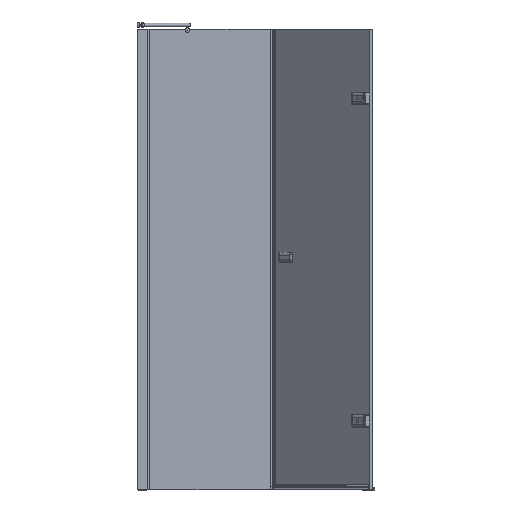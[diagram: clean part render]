
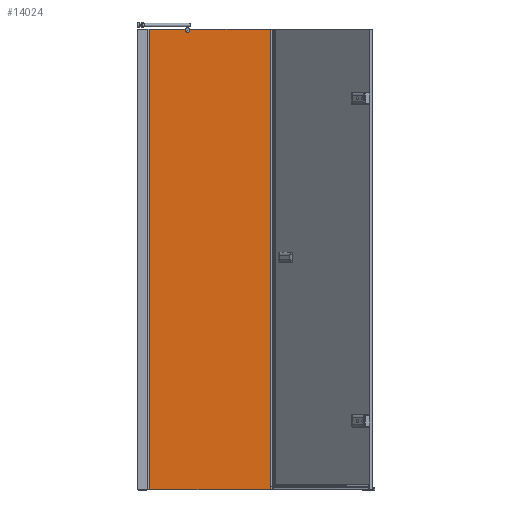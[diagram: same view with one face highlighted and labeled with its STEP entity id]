
A CAD part, left-side view. The second image highlights one B-rep face of the part: STEP entity #14024.
In plain terms, the highlighted planar face has unit normal (-1, 0, 0).
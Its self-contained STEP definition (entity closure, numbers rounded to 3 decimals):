
#520=CIRCLE($,#14944,10.);
#1300=FACE_OUTER_BOUND($,#2063,.T.);
#2063=EDGE_LOOP($,(#10634,#10635,#10636,#10637,#10638,#10639,#10640,#10641));
#3184=LINE($,#22756,#4639);
#3204=LINE($,#22815,#4659);
#3250=LINE($,#22934,#4705);
#3254=LINE($,#22943,#4709);
#3259=LINE($,#22955,#4714);
#3260=LINE($,#22958,#4715);
#3261=LINE($,#22959,#4716);
#4639=VECTOR($,#17378,349.724);
#4659=VECTOR($,#17420,158.474);
#4705=VECTOR($,#17534,45.);
#4709=VECTOR($,#17542,2000.);
#4714=VECTOR($,#17559,1.);
#4715=VECTOR($,#17562,571.059);
#4716=VECTOR($,#17563,2001.);
#6051=VERTEX_POINT($,#22533);
#6053=VERTEX_POINT($,#22537);
#6077=VERTEX_POINT($,#22755);
#6105=VERTEX_POINT($,#22813);
#6135=VERTEX_POINT($,#22931);
#6136=VERTEX_POINT($,#22933);
#6140=VERTEX_POINT($,#22953);
#6141=VERTEX_POINT($,#22957);
#7602=EDGE_CURVE($,#6051,#6053,#520,.T.);
#7633=EDGE_CURVE($,#6077,#6051,#3184,.T.);
#7663=EDGE_CURVE($,#6053,#6105,#3204,.T.);
#7720=EDGE_CURVE($,#6136,#6135,#3250,.T.);
#7725=EDGE_CURVE($,#6105,#6136,#3254,.T.);
#7730=EDGE_CURVE($,#6140,#6135,#3259,.T.);
#7731=EDGE_CURVE($,#6141,#6140,#3260,.T.);
#7732=EDGE_CURVE($,#6141,#6077,#3261,.T.);
#10634=ORIENTED_EDGE($,*,*,#7602,.T.);
#10635=ORIENTED_EDGE($,*,*,#7663,.T.);
#10636=ORIENTED_EDGE($,*,*,#7725,.T.);
#10637=ORIENTED_EDGE($,*,*,#7720,.T.);
#10638=ORIENTED_EDGE($,*,*,#7730,.F.);
#10639=ORIENTED_EDGE($,*,*,#7731,.F.);
#10640=ORIENTED_EDGE($,*,*,#7732,.T.);
#10641=ORIENTED_EDGE($,*,*,#7633,.T.);
#12670=PLANE($,#15020);
#14024=ADVANCED_FACE($,(#1300),#12670,.T.);
#14944=AXIS2_PLACEMENT_3D($,#22539,#17318,#17319);
#15020=AXIS2_PLACEMENT_3D($,#22956,#17560,#17561);
#17318=DIRECTION('center_axis',(1.,0.,0.));
#17319=DIRECTION('ref_axis',(0.,0.597,0.802));
#17378=DIRECTION($,(0.,1.,0.));
#17420=DIRECTION($,(0.,1.,0.));
#17534=DIRECTION($,(0.,1.,0.));
#17542=DIRECTION($,(0.,0.,-1.));
#17559=DIRECTION($,(0.,0.,1.));
#17560=DIRECTION('center_axis',(-1.,0.,0.));
#17561=DIRECTION('ref_axis',(0.,0.,1.));
#17562=DIRECTION($,(0.,1.,0.));
#17563=DIRECTION($,(0.,0.,1.));
#22533=CARTESIAN_POINT('',(1226.425,717.622,1585.944));
#22537=CARTESIAN_POINT('',(1226.425,735.482,1585.944));
#22539=CARTESIAN_POINT('Origin',(1226.425,726.552,1581.444));
#22755=CARTESIAN_POINT('',(1226.425,367.897,1585.944));
#22756=CARTESIAN_POINT($,(1226.425,367.897,1585.944));
#22813=CARTESIAN_POINT('',(1226.425,893.956,1585.944));
#22815=CARTESIAN_POINT($,(1226.425,367.897,1585.944));
#22931=CARTESIAN_POINT('',(1226.425,938.956,-414.056));
#22933=CARTESIAN_POINT('',(1226.425,893.956,-414.056));
#22934=CARTESIAN_POINT($,(1226.425,645.432,-414.056));
#22943=CARTESIAN_POINT($,(1226.425,893.956,585.444));
#22953=CARTESIAN_POINT('',(1226.425,938.956,-415.056));
#22955=CARTESIAN_POINT($,(1226.425,938.956,-415.056));
#22956=CARTESIAN_POINT('Origin',(1226.425,367.897,-415.056));
#22957=CARTESIAN_POINT('',(1226.425,367.897,-415.056));
#22958=CARTESIAN_POINT($,(1226.425,367.897,-415.056));
#22959=CARTESIAN_POINT($,(1226.425,367.897,-415.056));
